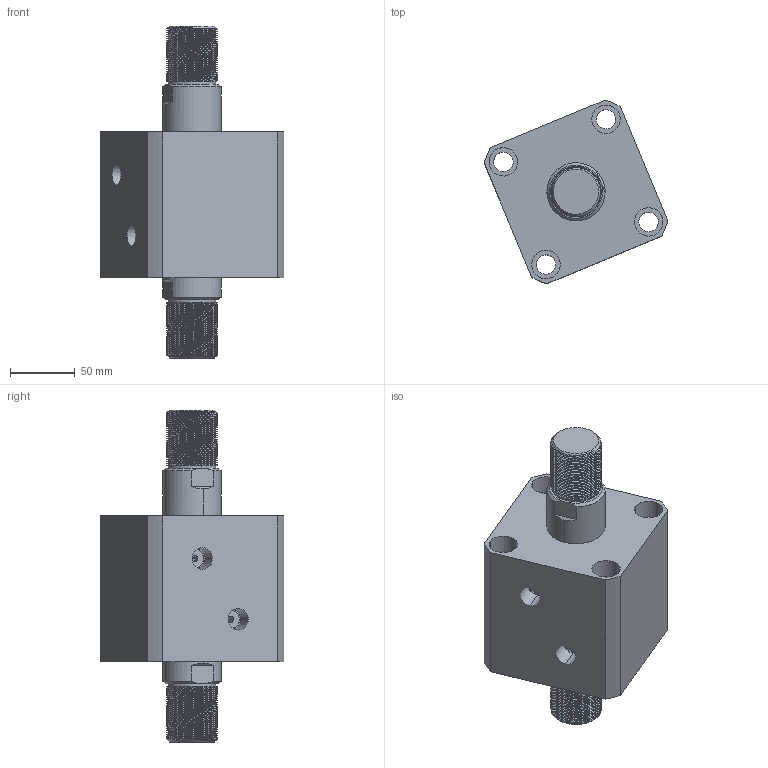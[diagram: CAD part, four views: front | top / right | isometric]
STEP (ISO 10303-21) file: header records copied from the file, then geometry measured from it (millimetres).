
FILE_DESCRIPTION (( 'STEP AP214' ), '1' );
FILE_NAME ('chtb-sw80x20w_asm.STEP', '2018-05-28T01:36:30', ( 'Windows' ), ( 'Microsoft' ), 'SwSTEP 2.0', 'SolidWorks 2015', '' );
FILE_SCHEMA (( 'AUTOMOTIVE_DESIGN' ));
Length unit declared in the file: millimetre
Products named in the file (4): CHTB-SW80X20WHSG; CHTB-SW80X20NBT; CHTB-SD80QG; chtb-sw80x20w_asm
Assembly tree (3 placements, depth 2):
  chtb-sw80x20w_asm
    CHTB-SD80QG
    CHTB-SW80X20NBT
    CHTB-SW80X20WHSG
Bounding box: 142.06 x 142.06 x 257 mm (x, y, z)
Volume: 1442941.2 mm3; surface area: 205178.9 mm2
Topology: 3 solids, 3 shells, 330 faces, 908 edges, 607 vertices
Faces by surface type: cylinder 221, plane 48, cone 25, bspline 18, torus 18
Entity records: 25864 total; most frequent: CARTESIAN_POINT 18238, ORIENTED_EDGE 1808, DIRECTION 1338, EDGE_CURVE 904, VERTEX_POINT 607, AXIS2_PLACEMENT_3D 532, EDGE_LOOP 373, FACE_OUTER_BOUND 330
